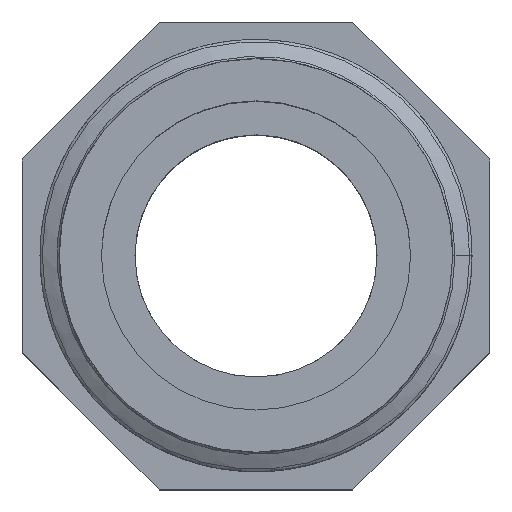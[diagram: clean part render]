
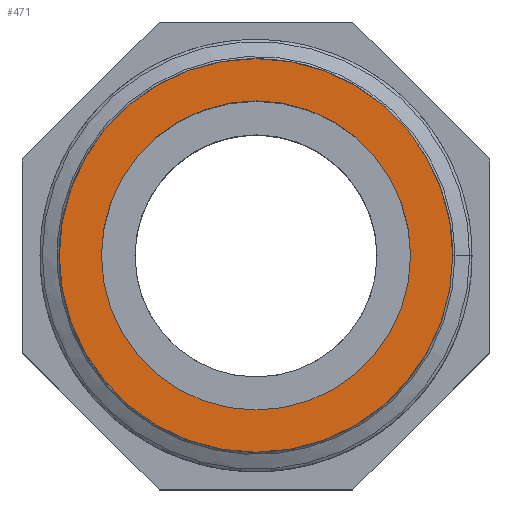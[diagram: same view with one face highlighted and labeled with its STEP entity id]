
A CAD part, top view. The second image highlights one B-rep face of the part: STEP entity #471.
In plain terms, the highlighted planar face has unit normal (0, 0, 1).
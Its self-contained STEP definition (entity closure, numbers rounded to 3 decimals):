
#18=FACE_BOUND('',#111,.T.);
#39=PLANE('',#501);
#45=CIRCLE('',#483,15.146);
#51=CIRCLE('',#502,11.9);
#78=FACE_OUTER_BOUND('',#110,.T.);
#110=EDGE_LOOP('',(#422));
#111=EDGE_LOOP('',(#423));
#210=VERTEX_POINT('',#2638);
#242=VERTEX_POINT('',#6897);
#262=EDGE_CURVE('',#210,#210,#45,.T.);
#306=EDGE_CURVE('',#242,#242,#51,.T.);
#422=ORIENTED_EDGE('',*,*,#262,.T.);
#423=ORIENTED_EDGE('',*,*,#306,.F.);
#471=ADVANCED_FACE('',(#78,#18),#39,.T.);
#483=AXIS2_PLACEMENT_3D('',#3828,#524,#525);
#501=AXIS2_PLACEMENT_3D('',#6896,#587,#588);
#502=AXIS2_PLACEMENT_3D('',#6898,#589,#590);
#524=DIRECTION('center_axis',(0.,0.,1.));
#525=DIRECTION('ref_axis',(1.,0.,0.));
#587=DIRECTION('center_axis',(0.,0.,1.));
#588=DIRECTION('ref_axis',(1.,0.,0.));
#589=DIRECTION('center_axis',(0.,0.,1.));
#590=DIRECTION('ref_axis',(1.,0.,0.));
#2638=CARTESIAN_POINT('',(15.146,0.,43.));
#3828=CARTESIAN_POINT('Origin',(0.,0.,43.));
#6896=CARTESIAN_POINT('Origin',(11.9,0.,43.));
#6897=CARTESIAN_POINT('',(11.9,0.,43.));
#6898=CARTESIAN_POINT('Origin',(0.,0.,43.));
